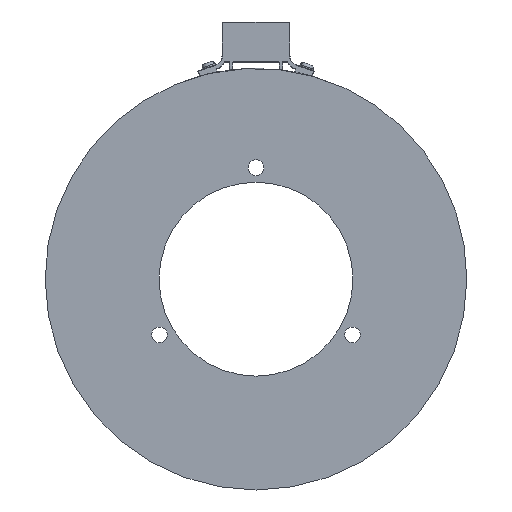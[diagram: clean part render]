
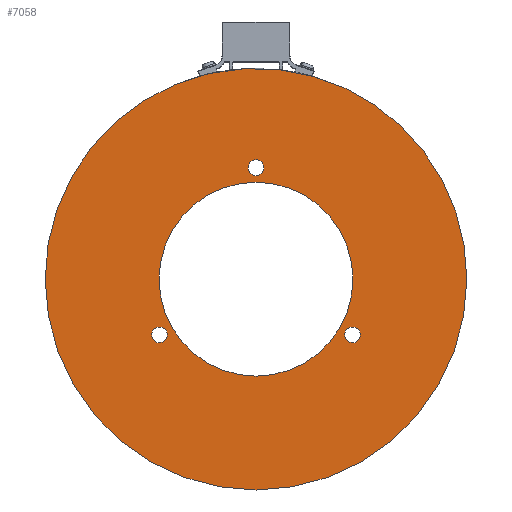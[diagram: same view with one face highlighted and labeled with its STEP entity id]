
A CAD part, left-side view. The second image highlights one B-rep face of the part: STEP entity #7058.
In plain terms, the highlighted planar face has unit normal (-1, 0, 0).
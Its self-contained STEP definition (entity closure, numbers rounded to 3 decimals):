
#168=PLANE('',#8035);
#239=FACE_BOUND('',#1065,.T.);
#240=FACE_BOUND('',#1066,.T.);
#241=FACE_BOUND('',#1067,.T.);
#242=FACE_BOUND('',#1068,.T.);
#633=FACE_OUTER_BOUND('',#1064,.T.);
#1064=EDGE_LOOP('',(#5988,#5989,#5990));
#1065=EDGE_LOOP('',(#5991));
#1066=EDGE_LOOP('',(#5992));
#1067=EDGE_LOOP('',(#5993));
#1068=EDGE_LOOP('',(#5994,#5995));
#1100=CIRCLE('',#7104,87.);
#1101=CIRCLE('',#7105,87.);
#1298=CIRCLE('',#7479,87.);
#1691=CIRCLE('',#8036,3.25);
#1692=CIRCLE('',#8037,3.25);
#1693=CIRCLE('',#8038,3.25);
#1694=CIRCLE('',#8039,40.);
#1695=CIRCLE('',#8040,40.);
#2433=VERTEX_POINT('',#10465);
#2438=VERTEX_POINT('',#10475);
#2439=VERTEX_POINT('',#10477);
#3047=VERTEX_POINT('',#12804);
#3048=VERTEX_POINT('',#12806);
#3049=VERTEX_POINT('',#12808);
#3050=VERTEX_POINT('',#12810);
#3051=VERTEX_POINT('',#12811);
#3101=EDGE_CURVE('',#2439,#2438,#1100,.T.);
#3102=EDGE_CURVE('',#2433,#2439,#1101,.T.);
#3527=EDGE_CURVE('',#2438,#2433,#1298,.T.);
#4058=EDGE_CURVE('',#3047,#3047,#1691,.T.);
#4059=EDGE_CURVE('',#3048,#3048,#1692,.T.);
#4060=EDGE_CURVE('',#3049,#3049,#1693,.T.);
#4061=EDGE_CURVE('',#3050,#3051,#1694,.T.);
#4062=EDGE_CURVE('',#3051,#3050,#1695,.T.);
#5988=ORIENTED_EDGE('',*,*,#3101,.T.);
#5989=ORIENTED_EDGE('',*,*,#3527,.T.);
#5990=ORIENTED_EDGE('',*,*,#3102,.T.);
#5991=ORIENTED_EDGE('',*,*,#4058,.T.);
#5992=ORIENTED_EDGE('',*,*,#4059,.T.);
#5993=ORIENTED_EDGE('',*,*,#4060,.T.);
#5994=ORIENTED_EDGE('',*,*,#4061,.F.);
#5995=ORIENTED_EDGE('',*,*,#4062,.F.);
#7058=ADVANCED_FACE('',(#633,#239,#240,#241,#242),#168,.T.);
#7104=AXIS2_PLACEMENT_3D('',#10478,#8117,#8118);
#7105=AXIS2_PLACEMENT_3D('',#10479,#8119,#8120);
#7479=AXIS2_PLACEMENT_3D('',#11640,#9066,#9067);
#8035=AXIS2_PLACEMENT_3D('',#12803,#10307,#10308);
#8036=AXIS2_PLACEMENT_3D('',#12805,#10309,#10310);
#8037=AXIS2_PLACEMENT_3D('',#12807,#10311,#10312);
#8038=AXIS2_PLACEMENT_3D('',#12809,#10313,#10314);
#8039=AXIS2_PLACEMENT_3D('',#12812,#10315,#10316);
#8040=AXIS2_PLACEMENT_3D('',#12813,#10317,#10318);
#8117=DIRECTION('center_axis',(-1.,0.,0.));
#8118=DIRECTION('ref_axis',(0.,1.,0.));
#8119=DIRECTION('center_axis',(-1.,0.,0.));
#8120=DIRECTION('ref_axis',(0.,1.,0.));
#9066=DIRECTION('center_axis',(-1.,0.,0.));
#9067=DIRECTION('ref_axis',(0.,1.,0.));
#10307=DIRECTION('center_axis',(-1.,0.,0.));
#10308=DIRECTION('ref_axis',(0.,0.,
1.));
#10309=DIRECTION('center_axis',(1.,0.,0.));
#10310=DIRECTION('ref_axis',(0.,0.,
-1.));
#10311=DIRECTION('center_axis',(1.,0.,0.));
#10312=DIRECTION('ref_axis',(0.,0.,
-1.));
#10313=DIRECTION('center_axis',(1.,0.,0.));
#10314=DIRECTION('ref_axis',(0.,0.,
-1.));
#10315=DIRECTION('center_axis',(-1.,0.,0.));
#10316=DIRECTION('ref_axis',(0.,1.,0.));
#10317=DIRECTION('center_axis',(-1.,0.,0.));
#10318=DIRECTION('ref_axis',(0.,1.,0.));
#10465=CARTESIAN_POINT('',(-25.05,-9.696,86.46));
#10475=CARTESIAN_POINT('',(-25.05,-87.018,0.));
#10477=CARTESIAN_POINT('',(-25.05,86.982,0.));
#10478=CARTESIAN_POINT('Origin',(-25.05,-0.018,0.));
#10479=CARTESIAN_POINT('Origin',(-25.05,-0.018,0.));
#11640=CARTESIAN_POINT('Origin',(-25.05,-0.018,0.));
#12803=CARTESIAN_POINT('Origin',(-25.05,63.482,0.));
#12804=CARTESIAN_POINT('',(-25.05,-39.855,-19.75));
#12805=CARTESIAN_POINT('Origin',(-25.05,-39.855,-23.));
#12806=CARTESIAN_POINT('',(-25.05,-0.018,49.25));
#12807=CARTESIAN_POINT('Origin',(-25.05,-0.018,46.));
#12808=CARTESIAN_POINT('',(-25.05,39.819,-19.75));
#12809=CARTESIAN_POINT('Origin',(-25.05,39.819,-23.));
#12810=CARTESIAN_POINT('',(-25.05,39.982,0.));
#12811=CARTESIAN_POINT('',(-25.05,-40.018,0.));
#12812=CARTESIAN_POINT('Origin',(-25.05,-0.018,0.));
#12813=CARTESIAN_POINT('Origin',(-25.05,-0.018,0.));
